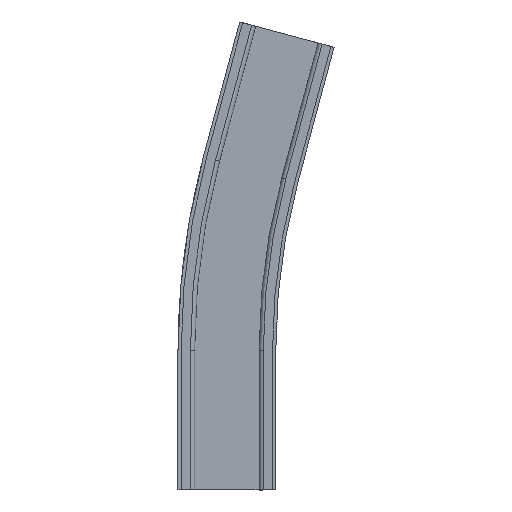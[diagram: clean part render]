
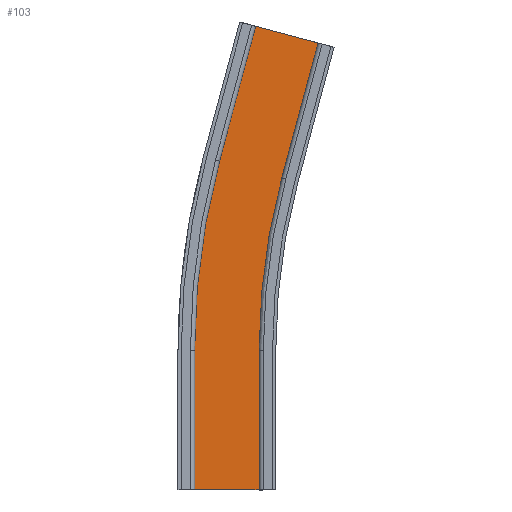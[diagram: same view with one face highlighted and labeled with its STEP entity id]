
A CAD part, front view. The second image highlights one B-rep face of the part: STEP entity #103.
In plain terms, the highlighted planar face has unit normal (0, -1, 0).
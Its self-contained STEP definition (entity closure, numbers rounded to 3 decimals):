
#103 = ADVANCED_FACE ( 'NONE', ( #4145 ), #2457, .F. ) ;
#196 = EDGE_CURVE ( 'NONE', #1250, #1258, #1573, .T. ) ;
#200 = EDGE_CURVE ( 'NONE', #1323, #1376, #3997, .T. ) ;
#378 = AXIS2_PLACEMENT_3D ( 'NONE', #2905, #2904, #2458 ) ;
#434 = EDGE_CURVE ( 'NONE', #1340, #1321, #3738, .T. ) ;
#474 = EDGE_CURVE ( 'NONE', #1376, #1250, #3669, .T. ) ;
#779 = DIRECTION ( 'NONE',  ( -0.259, 0., -0.966 ) ) ;
#780 = CARTESIAN_POINT ( 'NONE',  ( -373.976, 246.202, 373.694 ) ) ;
#850 = DIRECTION ( 'NONE',  ( 0., 0., 1. ) ) ;
#851 = CARTESIAN_POINT ( 'NONE',  ( -474.889, 246.202, 155.327 ) ) ;
#1250 = VERTEX_POINT ( 'NONE', #7453 ) ;
#1258 = VERTEX_POINT ( 'NONE', #7445 ) ;
#1321 = VERTEX_POINT ( 'NONE', #7382 ) ;
#1323 = VERTEX_POINT ( 'NONE', #7380 ) ;
#1340 = VERTEX_POINT ( 'NONE', #7363 ) ;
#1376 = VERTEX_POINT ( 'NONE', #7233 ) ;
#1561 =( BOUNDED_CURVE ( )  B_SPLINE_CURVE ( 3, ( #1827, #1826, #1825, #1824 ),
 .UNSPECIFIED., .F., .T. ) 
 B_SPLINE_CURVE_WITH_KNOTS ( ( 4, 4 ),
 ( 0., 1. ),
 .UNSPECIFIED. ) 
 CURVE ( )  GEOMETRIC_REPRESENTATION_ITEM ( )  RATIONAL_B_SPLINE_CURVE ( ( 1., 0.994, 0.994, 1. ) ) 
 REPRESENTATION_ITEM ( '' )  );
#1573 =( BOUNDED_CURVE ( )  B_SPLINE_CURVE ( 3, ( #2462, #2484, #2475, #2320 ),
 .UNSPECIFIED., .F., .F. ) 
 B_SPLINE_CURVE_WITH_KNOTS ( ( 4, 4 ),
 ( 0., 1. ),
 .UNSPECIFIED. ) 
 CURVE ( )  GEOMETRIC_REPRESENTATION_ITEM ( )  RATIONAL_B_SPLINE_CURVE ( ( 1., 0.994, 0.994, 1. ) ) 
 REPRESENTATION_ITEM ( '' )  );
#1824 = CARTESIAN_POINT ( 'NONE',  ( -456.847, 246.202, 292.372 ) ) ;
#1825 = CARTESIAN_POINT ( 'NONE',  ( -468.841, 246.202, 247.611 ) ) ;
#1826 = CARTESIAN_POINT ( 'NONE',  ( -474.889, 246.202, 201.667 ) ) ;
#1827 = CARTESIAN_POINT ( 'NONE',  ( -474.889, 246.202, 155.327 ) ) ;
#1883 = DIRECTION ( 'NONE',  ( 0.259, 0., 0.966 ) ) ;
#1884 = CARTESIAN_POINT ( 'NONE',  ( -456.847, 246.202, 292.372 ) ) ;
#2320 = CARTESIAN_POINT ( 'NONE',  ( -415.889, 246.202, 155.327 ) ) ;
#2457 = PLANE ( 'NONE',  #378 ) ;
#2458 = DIRECTION ( 'NONE',  ( -1., 0., 0. ) ) ;
#2462 = CARTESIAN_POINT ( 'NONE',  ( -399.857, 246.202, 277.102 ) ) ;
#2475 = CARTESIAN_POINT ( 'NONE',  ( -415.889, 246.202, 196.504 ) ) ;
#2484 = CARTESIAN_POINT ( 'NONE',  ( -410.515, 246.202, 237.328 ) ) ;
#2904 = DIRECTION ( 'NONE',  ( 0., 1., 0. ) ) ;
#2905 = CARTESIAN_POINT ( 'NONE',  ( -474.889, 246.202, 155.327 ) ) ;
#2968 = DIRECTION ( 'NONE',  ( 0.966, 0., -0.259 ) ) ;
#3014 = CARTESIAN_POINT ( 'NONE',  ( -373.976, 246.202, 373.694 ) ) ;
#3585 = EDGE_CURVE ( 'NONE', #4874, #1258, #7967, .T. ) ;
#3665 = VECTOR ( 'NONE', #779, 1000. ) ;
#3669 = LINE ( 'NONE', #780, #3665 ) ;
#3721 = EDGE_CURVE ( 'NONE', #1340, #4874, #7853, .T. ) ;
#3734 = VECTOR ( 'NONE', #850, 1000. ) ;
#3738 = LINE ( 'NONE', #851, #3734 ) ;
#3995 = VECTOR ( 'NONE', #2968, 1000. ) ;
#3997 = LINE ( 'NONE', #3014, #3995 ) ;
#4145 = FACE_OUTER_BOUND ( 'NONE', #5152, .T. ) ;
#4874 = VERTEX_POINT ( 'NONE', #6152 ) ;
#4889 = VERTEX_POINT ( 'NONE', #6137 ) ;
#5085 = ORIENTED_EDGE ( 'NONE', *, *, #200, .F. ) ;
#5152 = EDGE_LOOP ( 'NONE', ( #5704, #5457, #5260, #5085, #5828, #5206, #5366, #5829 ) ) ;
#5206 = ORIENTED_EDGE ( 'NONE', *, *, #7300, .F. ) ;
#5260 = ORIENTED_EDGE ( 'NONE', *, *, #474, .F. ) ;
#5366 = ORIENTED_EDGE ( 'NONE', *, *, #434, .F. ) ;
#5457 = ORIENTED_EDGE ( 'NONE', *, *, #196, .F. ) ;
#5704 = ORIENTED_EDGE ( 'NONE', *, *, #3585, .T. ) ;
#5828 = ORIENTED_EDGE ( 'NONE', *, *, #7275, .F. ) ;
#5829 = ORIENTED_EDGE ( 'NONE', *, *, #3721, .T. ) ;
#6137 = CARTESIAN_POINT ( 'NONE',  ( -456.847, 246.202, 292.372 ) ) ;
#6152 = CARTESIAN_POINT ( 'NONE',  ( -415.889, 246.202, 55.327 ) ) ;
#6486 = DIRECTION ( 'NONE',  ( 1., 0., 0. ) ) ;
#6487 = CARTESIAN_POINT ( 'NONE',  ( -415.889, 246.202, 55.327 ) ) ;
#6661 = DIRECTION ( 'NONE',  ( 0., 0., 1. ) ) ;
#6662 = CARTESIAN_POINT ( 'NONE',  ( -415.889, 246.202, 155.327 ) ) ;
#7233 = CARTESIAN_POINT ( 'NONE',  ( -373.976, 246.202, 373.694 ) ) ;
#7275 = EDGE_CURVE ( 'NONE', #4889, #1323, #7636, .T. ) ;
#7300 = EDGE_CURVE ( 'NONE', #1321, #4889, #1561, .T. ) ;
#7363 = CARTESIAN_POINT ( 'NONE',  ( -474.889, 246.202, 55.327 ) ) ;
#7380 = CARTESIAN_POINT ( 'NONE',  ( -430.965, 246.202, 388.965 ) ) ;
#7382 = CARTESIAN_POINT ( 'NONE',  ( -474.889, 246.202, 155.327 ) ) ;
#7445 = CARTESIAN_POINT ( 'NONE',  ( -415.889, 246.202, 155.327 ) ) ;
#7453 = CARTESIAN_POINT ( 'NONE',  ( -399.857, 246.202, 277.102 ) ) ;
#7635 = VECTOR ( 'NONE', #1883, 1000. ) ;
#7636 = LINE ( 'NONE', #1884, #7635 ) ;
#7852 = VECTOR ( 'NONE', #6486, 1000. ) ;
#7853 = LINE ( 'NONE', #6487, #7852 ) ;
#7965 = VECTOR ( 'NONE', #6661, 1000. ) ;
#7967 = LINE ( 'NONE', #6662, #7965 ) ;
